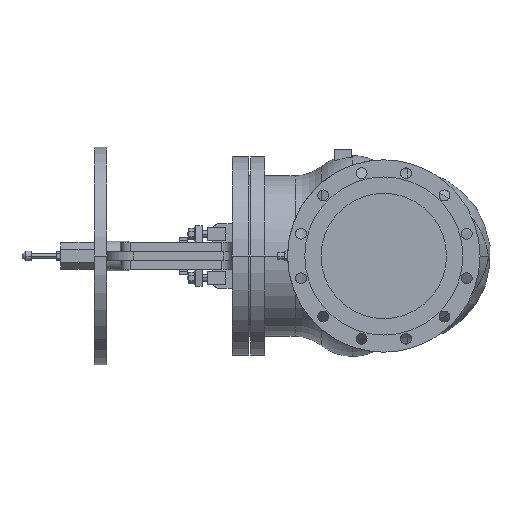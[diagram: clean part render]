
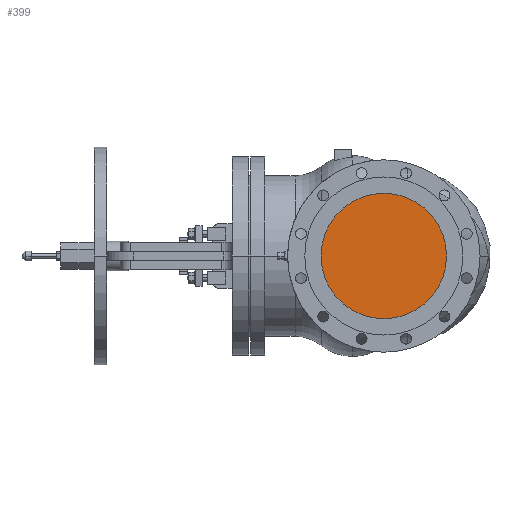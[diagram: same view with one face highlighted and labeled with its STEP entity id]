
A CAD part, left-side view. The second image highlights one B-rep face of the part: STEP entity #399.
In plain terms, the highlighted planar face has unit normal (-1, 0, 0).
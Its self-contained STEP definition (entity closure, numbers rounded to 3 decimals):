
#399 = ADVANCED_FACE( '', ( #1143 ), #1144, .T. );
#1143 = FACE_OUTER_BOUND( '', #1917, .T. );
#1144 = PLANE( '', #1918 );
#1917 = EDGE_LOOP( '', ( #4695, #4696 ) );
#1918 = AXIS2_PLACEMENT_3D( '', #4697, #4698, #4699 );
#4695 = ORIENTED_EDGE( '', *, *, #5744, .T. );
#4696 = ORIENTED_EDGE( '', *, *, #4903, .T. );
#4697 = CARTESIAN_POINT( '', ( 1., 75., 0. ) );
#4698 = DIRECTION( '', ( -1., 0., 0. ) );
#4699 = DIRECTION( '', ( 0., 1., 0. ) );
#4903 = EDGE_CURVE( '', #5893, #5890, #5894, .T. );
#5744 = EDGE_CURVE( '', #5890, #5893, #7283, .T. );
#5890 = VERTEX_POINT( '', #7553 );
#5893 = VERTEX_POINT( '', #7557 );
#5894 = CIRCLE( '', #7558, 150. );
#7283 = CIRCLE( '', #10118, 150. );
#7553 = CARTESIAN_POINT( '', ( 1., 150., 0. ) );
#7557 = CARTESIAN_POINT( '', ( 1., -150., 0. ) );
#7558 = AXIS2_PLACEMENT_3D( '', #10269, #10270, #10271 );
#10118 = AXIS2_PLACEMENT_3D( '', #11670, #11671, #11672 );
#10269 = CARTESIAN_POINT( '', ( 1., 0., 0. ) );
#10270 = DIRECTION( '', ( -1., 0., 0. ) );
#10271 = DIRECTION( '', ( 0., 1., 0. ) );
#11670 = CARTESIAN_POINT( '', ( 1., 0., 0. ) );
#11671 = DIRECTION( '', ( -1., 0., 0. ) );
#11672 = DIRECTION( '', ( 0., 1., 0. ) );
